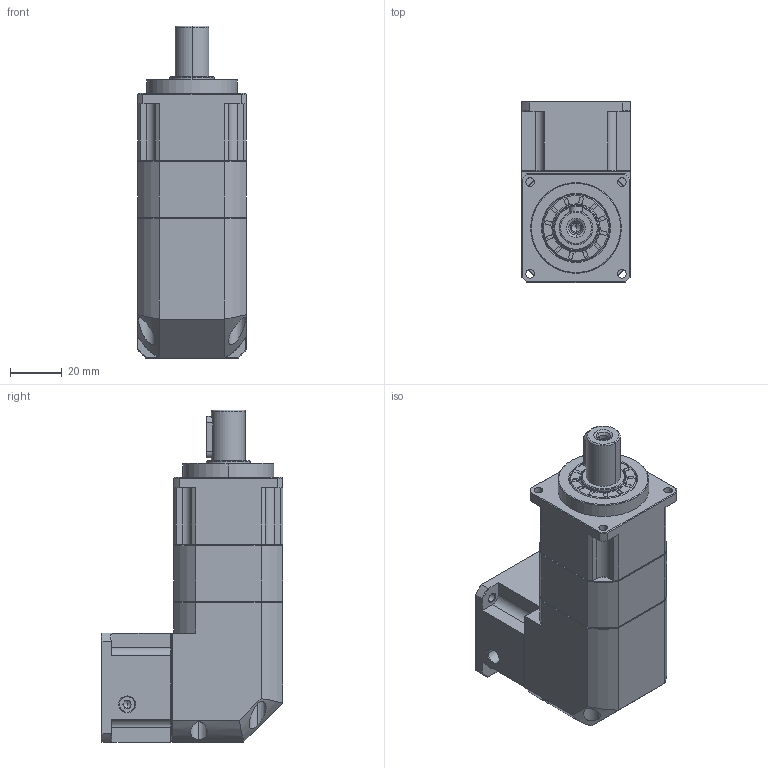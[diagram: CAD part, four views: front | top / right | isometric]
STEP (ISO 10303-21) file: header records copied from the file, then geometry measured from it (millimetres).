
FILE_DESCRIPTION (( 'STEP AP214' ), '1' );
FILE_NAME ('ZPBR042-D13-L2-P1-5-22-31X31-朴3.5.step', '2024-04-11T05:19:44', ( 'Windows 蚚誧' ), ( 'Organization' ), 'SwSTEP 2.0', 'SolidWorks 2016', '' );
FILE_SCHEMA (( 'AUTOMOTIVE_DESIGN' ));
Length unit declared in the file: millimetre
Products named in the file (1): ZPBR042-D13-L2-P1-5-22-31X31-朴3.5
Bounding box: 42 x 70 x 128 mm (x, y, z)
Volume: 183362.1 mm3; surface area: 51319.7 mm2
Topology: 7 solids, 16 shells, 1495 faces, 3839 edges, 2455 vertices
Faces by surface type: plane 661, bspline 337, cone 258, cylinder 237, torus 2
Entity records: 76335 total; most frequent: CARTESIAN_POINT 25513, ORIENTED_EDGE 7634, DIRECTION 6090, EDGE_CURVE 3817, VERTEX_POINT 2455, VECTOR 2278, LINE 2278, AXIS2_PLACEMENT_3D 1906
